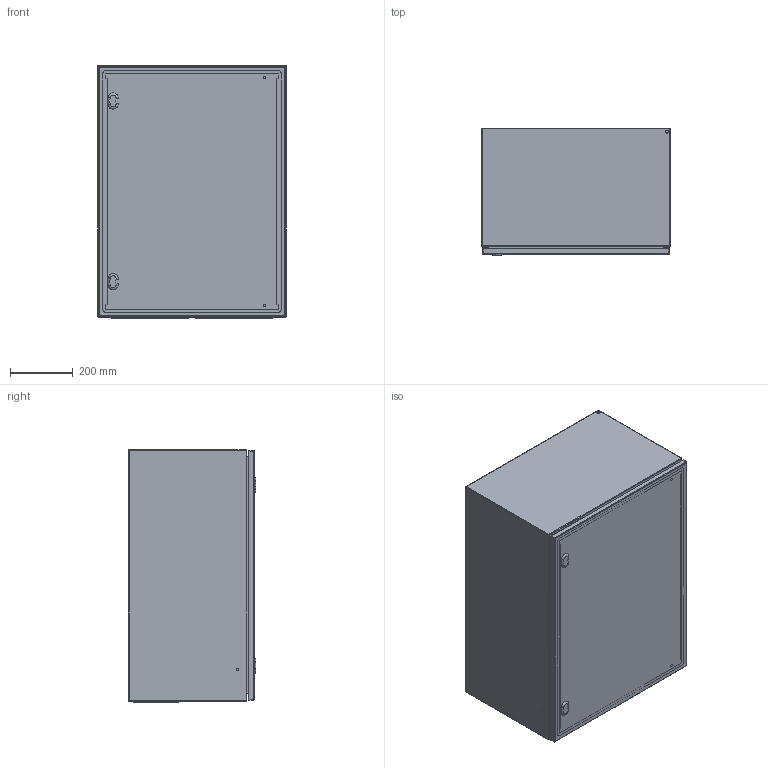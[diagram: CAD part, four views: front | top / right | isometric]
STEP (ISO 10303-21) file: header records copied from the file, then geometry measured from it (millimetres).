
FILE_DESCRIPTION(/* description */ ('STEP AP214'),/* implementation_level */ '2;1');
FILE_NAME(/* name */ 'EC060840-LOD400',/* time_stamp */ '2025-08-01T08:26:54+02:00',/* author */ ('License CC BY-ND 4.0'),/* organization */ ('CADENAS'),/* preprocessor_version */ 'ST-DEVELOPER v19.3',/* originating_system */ 'PARTsolutions',/* authorisation */ ' ');
FILE_SCHEMA (('AUTOMOTIVE_DESIGN {1 0 10303 214 3 1 1}'));
Length unit declared in the file: millimetre
Products named in the file (5): EC060840-LOD400; EC060840-LOD400_cabinet; EC060840-LOD400_door; EC060840-LOD400_bottom_plate; EC060840-LOD400_inner_plate
Assembly tree (5 placements, depth 2):
  EC060840-LOD400
    EC060840-LOD400_cabinet
    EC060840-LOD400_door
    EC060840-LOD400_bottom_plate  x2
    EC060840-LOD400_inner_plate
Bounding box: 600 x 405 x 804 mm (x, y, z)
Volume: 4402864.5 mm3; surface area: 5329723.1 mm2
Topology: 5 solids, 5 shells, 706 faces, 1696 edges, 1094 vertices
Faces by surface type: cylinder 284, plane 264, torus 80, cone 78
Full cylindrical faces by diameter (mm): 1 x64, 4.5 x62, 5 x4, 5.5 x4, 6 x4, 7 x4, 8 x12, 10 x10, 14 x4
Entity records: 15443 total; most frequent: DIRECTION 2812, CARTESIAN_POINT 2496, ORIENTED_EDGE 2236, AXIS2_PLACEMENT_3D 1146, EDGE_CURVE 1118, EDGE_LOOP 976, FACE_BOUND 976, VERTEX_POINT 830
